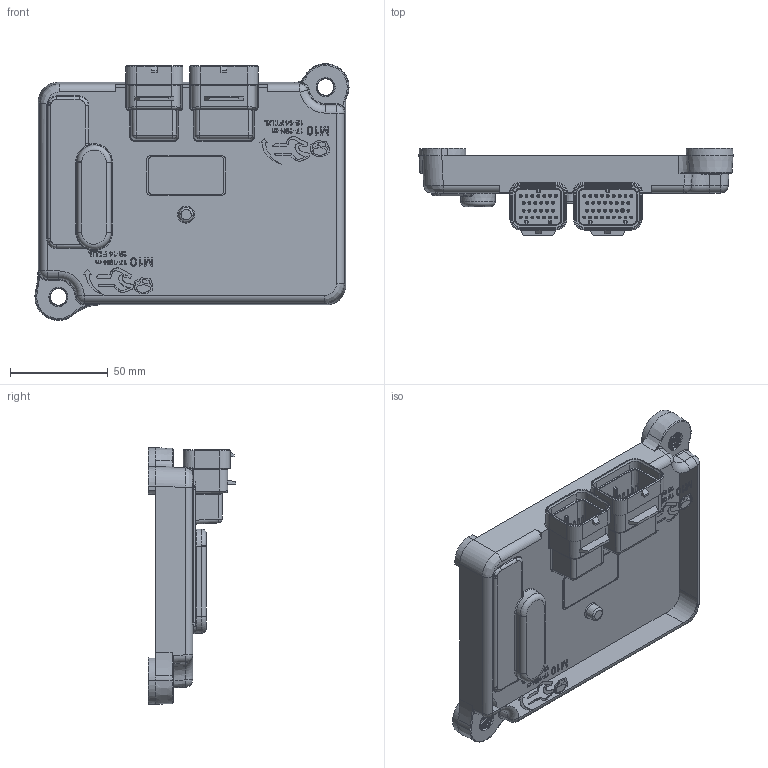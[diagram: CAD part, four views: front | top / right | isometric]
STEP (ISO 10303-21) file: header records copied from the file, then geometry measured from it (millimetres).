
FILE_DESCRIPTION(('STEP AP214'),'1');
FILE_NAME('1093B01R00.stp','2022-07-11T17:54:00',(' '),(' '),'Spatial InterOp 3D',' ',' ');
FILE_SCHEMA(('AUTOMOTIVE_DESIGN { 1 0 10303 214 1 1 1 1 }'));
Length unit declared in the file: metre
Products named in the file (1): 1093B01R00
Bounding box: 160.31 x 44.76 x 131.04 mm (x, y, z)
Volume: 291834.5 mm3; surface area: 63348.9 mm2
Topology: 1 solids, 1 shells, 1678 faces, 4139 edges, 2477 vertices
Faces by surface type: plane 622, cylinder 331, cone 282, sphere 148, extrusion 131, bspline 110, torus 54
Entity records: 70944 total; most frequent: CARTESIAN_POINT 32624, ORIENTED_EDGE 8034, DIRECTION 7644, EDGE_CURVE 4017, AXIS2_PLACEMENT_3D 2586, VERTEX_POINT 2476, VECTOR 2472, LINE 2341
